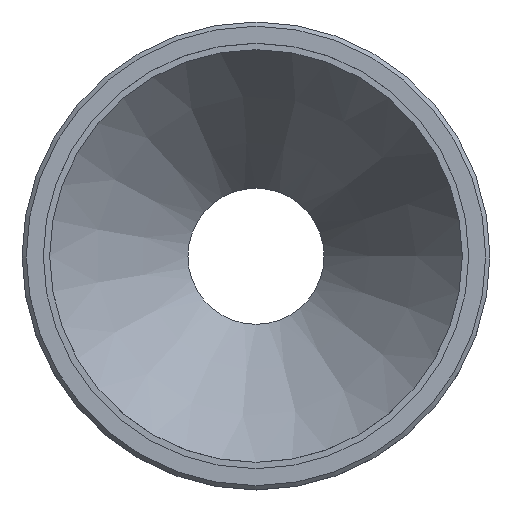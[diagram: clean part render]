
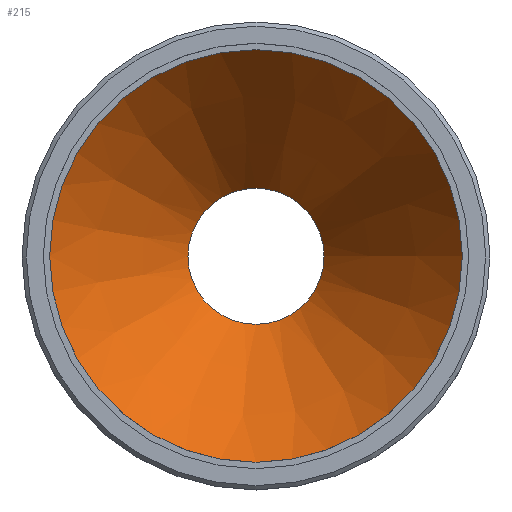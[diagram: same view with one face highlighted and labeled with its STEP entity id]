
A CAD part, top view. The second image highlights one B-rep face of the part: STEP entity #215.
In plain terms, the highlighted conical face has half-angle 35.47 degrees and reference radius 24.25 mm.
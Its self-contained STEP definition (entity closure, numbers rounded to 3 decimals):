
#169 = EDGE_CURVE('',#170,#170,#172,.T.);
#170 = VERTEX_POINT('',#171);
#171 = CARTESIAN_POINT('',(24.25,0.,20.));
#172 = CIRCLE('',#173,24.25);
#173 = AXIS2_PLACEMENT_3D('',#174,#175,#176);
#174 = CARTESIAN_POINT('',(0.,0.,20.));
#175 = DIRECTION('',(0.,0.,-1.));
#176 = DIRECTION('',(1.,0.,0.));
#215 = ADVANCED_FACE('',(#216),#235,.F.);
#216 = FACE_BOUND('',#217,.F.);
#217 = EDGE_LOOP('',(#218,#219,#227,#234));
#218 = ORIENTED_EDGE('',*,*,#169,.T.);
#219 = ORIENTED_EDGE('',*,*,#220,.T.);
#220 = EDGE_CURVE('',#170,#221,#223,.T.);
#221 = VERTEX_POINT('',#222);
#222 = CARTESIAN_POINT('',(8.,0.,-2.807));
#223 = LINE('',#224,#225);
#224 = CARTESIAN_POINT('',(24.25,0.,20.));
#225 = VECTOR('',#226,1.);
#226 = DIRECTION('',(-0.58,0.,-0.814));
#227 = ORIENTED_EDGE('',*,*,#228,.F.);
#228 = EDGE_CURVE('',#221,#221,#229,.T.);
#229 = CIRCLE('',#230,8.);
#230 = AXIS2_PLACEMENT_3D('',#231,#232,#233);
#231 = CARTESIAN_POINT('',(0.,0.,-2.807));
#232 = DIRECTION('',(0.,0.,-1.));
#233 = DIRECTION('',(1.,0.,0.));
#234 = ORIENTED_EDGE('',*,*,#220,.F.);
#235 = CONICAL_SURFACE('',#236,24.25,0.619);
#236 = AXIS2_PLACEMENT_3D('',#237,#238,#239);
#237 = CARTESIAN_POINT('',(0.,0.,20.));
#238 = DIRECTION('',(0.,0.,1.));
#239 = DIRECTION('',(1.,0.,0.));
